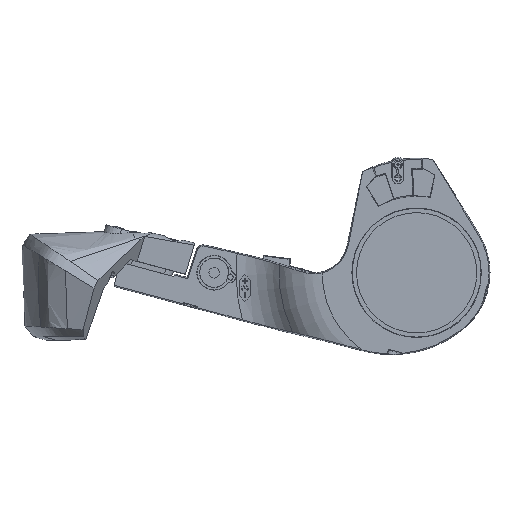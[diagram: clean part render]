
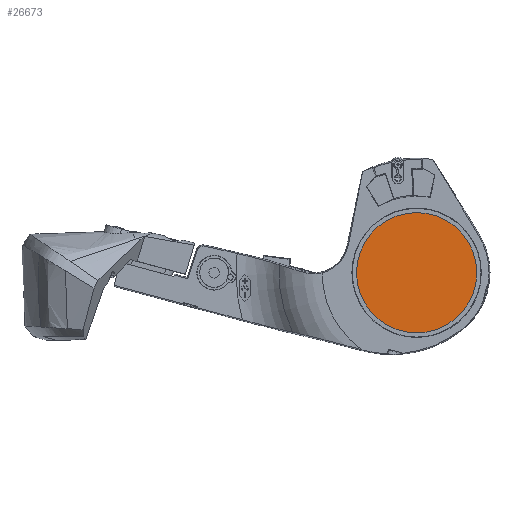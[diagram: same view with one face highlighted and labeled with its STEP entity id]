
A CAD part, front view. The second image highlights one B-rep face of the part: STEP entity #26673.
In plain terms, the highlighted planar face has unit normal (0, -1, 0).
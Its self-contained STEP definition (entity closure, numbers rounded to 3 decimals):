
#227 = DIRECTION ( 'NONE',  ( 0., 1., 0. ) ) ;
#1243 = AXIS2_PLACEMENT_3D ( 'NONE', #32309, #15758, #5533 ) ;
#2469 = CARTESIAN_POINT ( 'NONE',  ( 320., -205., 930. ) ) ;
#2809 = DIRECTION ( 'NONE',  ( -1., 0., 0. ) ) ;
#3586 = AXIS2_PLACEMENT_3D ( 'NONE', #2469, #21337, #2809 ) ;
#4111 = VERTEX_POINT ( 'NONE', #28768 ) ;
#5533 = DIRECTION ( 'NONE',  ( -1., 0., 0. ) ) ;
#8694 = PLANE ( 'NONE',  #11530 ) ;
#9036 = DIRECTION ( 'NONE',  ( -1., 0., 0. ) ) ;
#9420 = EDGE_CURVE ( 'NONE', #24603, #4111, #25557, .T. ) ;
#11530 = AXIS2_PLACEMENT_3D ( 'NONE', #21756, #227, #9036 ) ;
#12489 = CIRCLE ( 'NONE', #1243, 157.5 ) ;
#15758 = DIRECTION ( 'NONE',  ( 0., 1., 0. ) ) ;
#16835 = CARTESIAN_POINT ( 'NONE',  ( 162.5, -205., 930. ) ) ;
#17150 = EDGE_CURVE ( 'NONE', #4111, #24603, #12489, .T. ) ;
#17178 = ORIENTED_EDGE ( 'NONE', *, *, #17150, .F. ) ;
#18412 = ORIENTED_EDGE ( 'NONE', *, *, #9420, .F. ) ;
#21337 = DIRECTION ( 'NONE',  ( 0., 1., 0. ) ) ;
#21756 = CARTESIAN_POINT ( 'NONE',  ( 320., -205., 1087.5 ) ) ;
#21948 = EDGE_LOOP ( 'NONE', ( #18412, #17178 ) ) ;
#24603 = VERTEX_POINT ( 'NONE', #16835 ) ;
#24744 = FACE_OUTER_BOUND ( 'NONE', #21948, .T. ) ;
#25557 = CIRCLE ( 'NONE', #3586, 157.5 ) ;
#26673 = ADVANCED_FACE ( 'NONE', ( #24744 ), #8694, .F. ) ;
#28768 = CARTESIAN_POINT ( 'NONE',  ( 477.5, -205., 930. ) ) ;
#32309 = CARTESIAN_POINT ( 'NONE',  ( 320., -205., 930. ) ) ;
